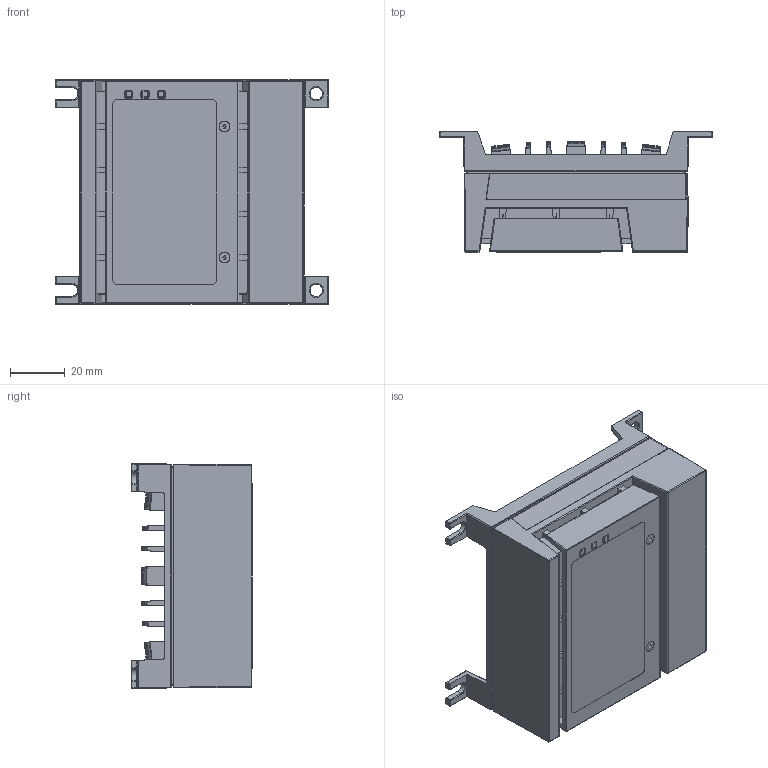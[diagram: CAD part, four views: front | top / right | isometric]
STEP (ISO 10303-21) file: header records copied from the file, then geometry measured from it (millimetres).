
FILE_DESCRIPTION(/* description */ (''),/* implementation_level */ '2;1');
FILE_NAME(/* name */ 'X:\0-inventor\0-3d-Teile\PC-Compo\solids\C6015\0-Ausgabe\C6015_M664_R0614.stp',/* time_stamp */ '2017-06-14T10:27:12+02:00',/* author */ ('ChristianKreuzer'),/* organization */ ('Design-AG'),/* preprocessor_version */ 'ST-DEVELOPER v16.5',/* originating_system */ 'Autodesk Inventor 2017',/* authorisation */ '');
FILE_SCHEMA (('AUTOMOTIVE_DESIGN { 1 0 10303 214 3 1 1 }'));
Products named in the file (3): C6015 - side panel; mounting plate at the rear panel; C6015_Gehäuse_R0228
Assembly tree (2 placements, depth 2):
  C6015 - side panel
    mounting plate at the rear panel
    C6015_Gehäuse_R0228
Bounding box: 100 x 44.1 x 82.25 mm (x, y, z)
Volume: 64587.2 mm3; surface area: 95073.2 mm2
Topology: 17 solids, 51 shells, 4859 faces, 13150 edges, 8349 vertices
Faces by surface type: plane 3139, cylinder 1073, torus 259, bspline 160, sphere 114, cone 114
Full cylindrical faces by diameter (mm): 0.457 x1, 2.3 x2, 2.729 x4, 4 x1
Entity records: 155414 total; most frequent: CARTESIAN_POINT 31430, ORIENTED_EDGE 26266, DIRECTION 25624, EDGE_CURVE 13061, LINE 9534, VECTOR 9534, VERTEX_POINT 8333, AXIS2_PLACEMENT_3D 8045
